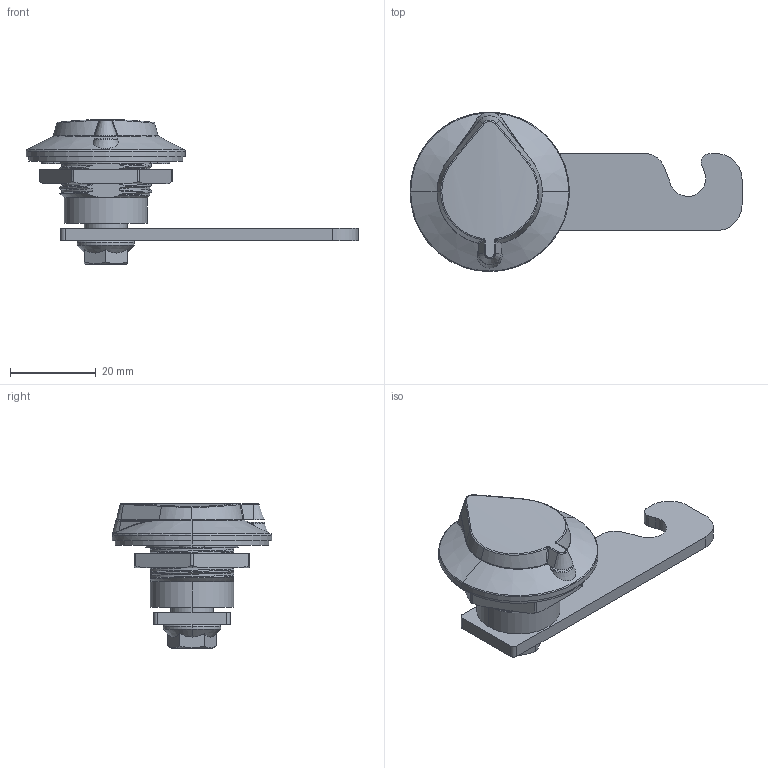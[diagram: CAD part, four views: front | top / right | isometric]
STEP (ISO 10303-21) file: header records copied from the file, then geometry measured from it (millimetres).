
FILE_DESCRIPTION (( 'STEP AP214' ), '1' );
FILE_NAME ('CUYUE D1-1411_stp.STEP', '2026-06-18T00:46:53', ( '' ), ( '' ), 'SwSTEP 2.0', 'SolidWorks 2020', '' );
FILE_SCHEMA (( 'AUTOMOTIVE_DESIGN' ));
Length unit declared in the file: millimetre
Products named in the file (10): D1-1411蚾饜芞_stp.sldasm-Part-2; D1-1411蚾饜芞_stp.sldasm-Part-3; CUYUE D1-1411_stp; D1-1411蚾饜芞_stp.sldasm-Part-9; D1-1411蚾饜芞_stp.sldasm-Part-7; D1-1411蚾饜芞_stp.sldasm-Part-5; D1-1411蚾饜芞_stp.sldasm-Part-8; D1-1411蚾饜芞_stp.sldasm-Part-6; D1-1411蚾饜芞_stp.sldasm-Part-1; D1-1411蚾饜芞_stp.sldasm-Part-4
Assembly tree (8 placements, depth 2):
  D1-1411蚾饜芞_stp.sldasm-Part-2
  CUYUE D1-1411_stp
    D1-1411蚾饜芞_stp.sldasm-Part-1
    D1-1411蚾饜芞_stp.sldasm-Part-3
    D1-1411蚾饜芞_stp.sldasm-Part-4
    D1-1411蚾饜芞_stp.sldasm-Part-5
    D1-1411蚾饜芞_stp.sldasm-Part-6
    D1-1411蚾饜芞_stp.sldasm-Part-7
    D1-1411蚾饜芞_stp.sldasm-Part-8
    D1-1411蚾饜芞_stp.sldasm-Part-9
Bounding box: 77.65 x 37.3 x 33.9 mm (x, y, z)
Volume: 13478.4 mm3; surface area: 14587.8 mm2
Topology: 8 solids, 8 shells, 451 faces, 1225 edges, 804 vertices
Faces by surface type: cylinder 240, plane 114, bspline 46, torus 26, cone 25
Entity records: 37212 total; most frequent: CARTESIAN_POINT 26232, ORIENTED_EDGE 2450, DIRECTION 1889, EDGE_CURVE 1225, VERTEX_POINT 804, AXIS2_PLACEMENT_3D 706, LINE 477, VECTOR 477
